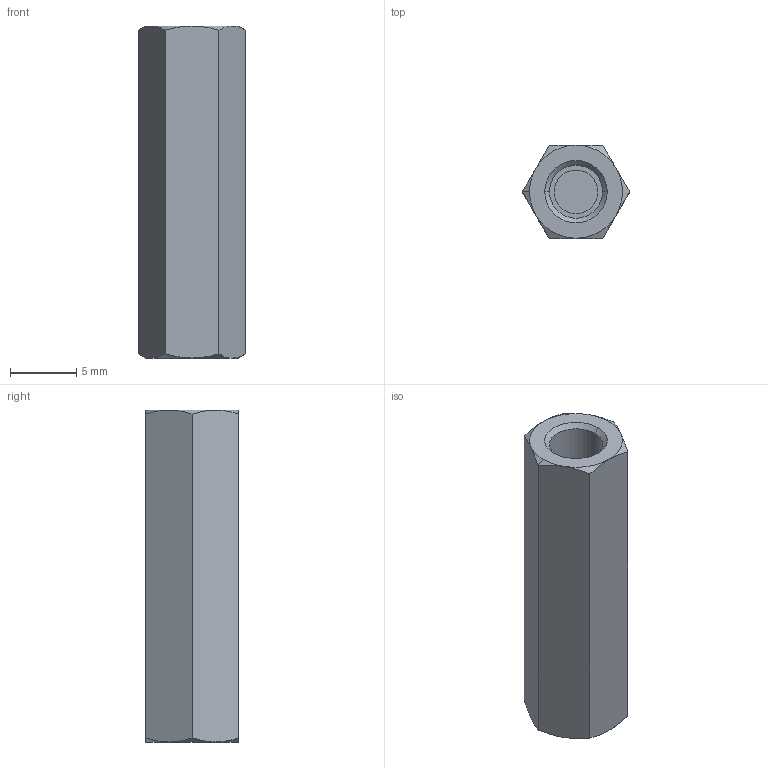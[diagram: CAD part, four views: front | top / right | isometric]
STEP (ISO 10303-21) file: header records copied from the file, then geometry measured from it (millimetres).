
FILE_DESCRIPTION (( 'STEP AP203' ), '1' );
FILE_NAME ('N0503.040-025-NP.step', '2025-02-27T14:43:00', ( '' ), ( '' ), 'SwSTEP 2.0', 'SolidWorks 2019', '' );
FILE_SCHEMA (( 'CONFIG_CONTROL_DESIGN' ));
Length unit declared in the file: millimetre
Products named in the file (1): N0503.040-025-NP
Bounding box: 8.08 x 7 x 25 mm (x, y, z)
Volume: 786.5 mm3; surface area: 956.7 mm2
Topology: 1 solids, 1 shells, 39 faces, 82 edges, 47 vertices
Faces by surface type: cone 20, plane 11, cylinder 8
Entity records: 1145 total; most frequent: CARTESIAN_POINT 267, DIRECTION 170, ORIENTED_EDGE 160, EDGE_CURVE 80, AXIS2_PLACEMENT_3D 74, VERTEX_POINT 47, EDGE_LOOP 43, FACE_OUTER_BOUND 39
